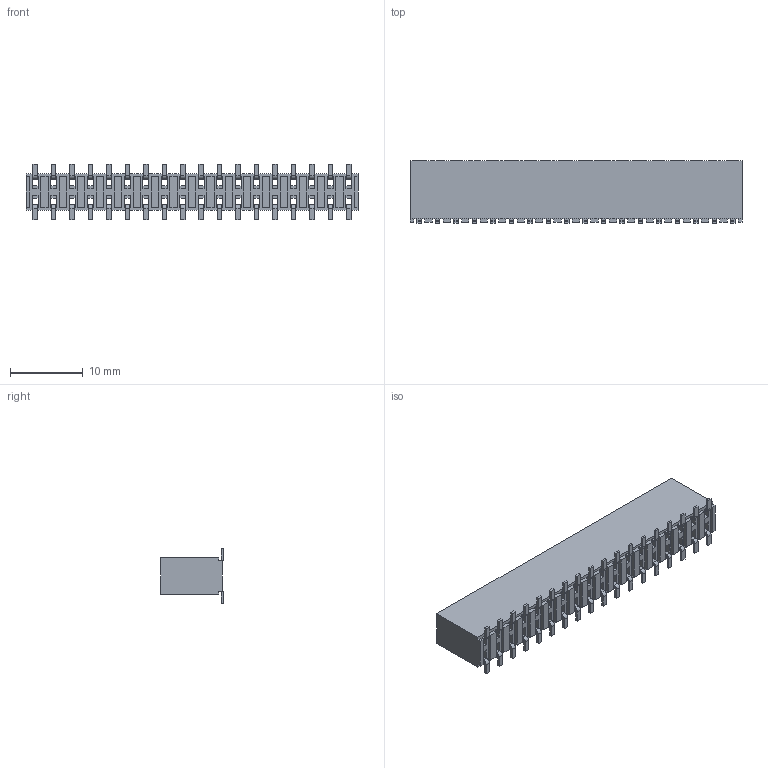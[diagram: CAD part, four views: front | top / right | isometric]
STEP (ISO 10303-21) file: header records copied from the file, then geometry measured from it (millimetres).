
FILE_DESCRIPTION(/* description */ (''),/* implementation_level */ '2;1');
FILE_NAME(/* name */ 'PM254-2-18-S-8.5-XX-LPT(L8.65) (2.54双排 贴片排母 防漏锡 塑高8.5-HCTL).stp',/* time_stamp */ '2026-10-23T16:45:10+08:00',/* author */ (''),/* organization */ (''),/* preprocessor_version */ 'ST-DEVELOPER v16',/* originating_system */ 'SIEMENS PLM Software NX 10.0',/* authorisation */ '');
FILE_SCHEMA (('AUTOMOTIVE_DESIGN { 1 0 10303 214 3 1 1 1 }'));
Length unit declared in the file: millimetre
Products named in the file (1): PM254-2-N-S-8.5-XX-LPT(L8.65) (2.54双排 \X2\8D34724763926BCD
\X0\ 防漏锡 塑高8.5-HCTL)
Bounding box: 45.72 x 8.65 x 7.6 mm (x, y, z)
Volume: 1532.2 mm3; surface area: 3110.5 mm2
Topology: 37 solids, 37 shells, 891 faces, 2256 edges, 1456 vertices
Faces by surface type: plane 819, cylinder 72
Entity records: 26510 total; most frequent: CARTESIAN_POINT 4604, ORIENTED_EDGE 4512, DIRECTION 4184, EDGE_CURVE 2256, LINE 2112, VECTOR 2112, VERTEX_POINT 1456, AXIS2_PLACEMENT_3D 1036
